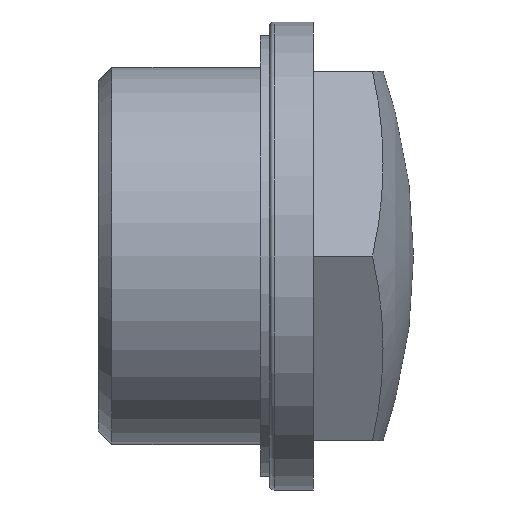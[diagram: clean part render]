
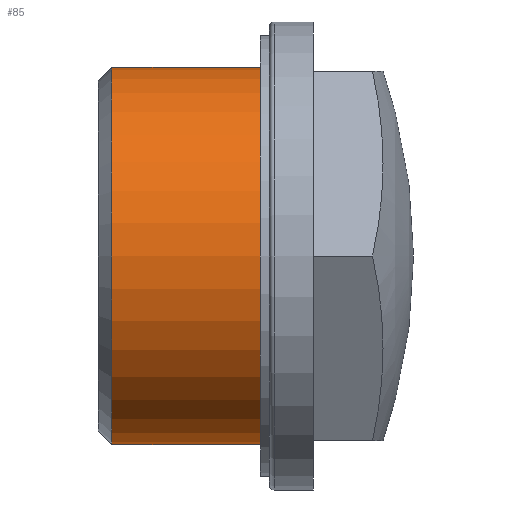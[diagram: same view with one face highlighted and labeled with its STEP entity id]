
A CAD part, front view. The second image highlights one B-rep face of the part: STEP entity #85.
In plain terms, the highlighted cylindrical face has radius 20.955 mm (diameter 41.91 mm), a full revolution.
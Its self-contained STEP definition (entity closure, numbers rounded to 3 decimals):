
#85 = ADVANCED_FACE( '', ( #925, #926 ), #927, .T. );
#925 = FACE_OUTER_BOUND( '', #2586, .T. );
#926 = FACE_OUTER_BOUND( '', #2587, .T. );
#927 = CYLINDRICAL_SURFACE( '', #2588, 20.955 );
#2586 = EDGE_LOOP( '', ( #4285 ) );
#2587 = EDGE_LOOP( '', ( #4286 ) );
#2588 = AXIS2_PLACEMENT_3D( '', #4287, #4288, #4289 );
#4285 = ORIENTED_EDGE( '', *, *, #9390, .T. );
#4286 = ORIENTED_EDGE( '', *, *, #9409, .F. );
#4287 = CARTESIAN_POINT( '', ( 0., 0., 0. ) );
#4288 = DIRECTION( '', ( -1., 0., 0. ) );
#4289 = DIRECTION( '', ( 0., 0., -1. ) );
#9390 = EDGE_CURVE( '', #10739, #10739, #10740, .T. );
#9409 = EDGE_CURVE( '', #10771, #10771, #10772, .T. );
#10739 = VERTEX_POINT( '', #12612 );
#10740 = CIRCLE( '', #12613, 20.955 );
#10771 = VERTEX_POINT( '', #12656 );
#10772 = CIRCLE( '', #12657, 20.955 );
#12612 = CARTESIAN_POINT( '', ( -17.521, 0., -20.955 ) );
#12613 = AXIS2_PLACEMENT_3D( '', #15674, #15675, #15676 );
#12656 = CARTESIAN_POINT( '', ( -1., 0., -20.955 ) );
#12657 = AXIS2_PLACEMENT_3D( '', #15707, #15708, #15709 );
#15674 = CARTESIAN_POINT( '', ( -17.521, 0., 0. ) );
#15675 = DIRECTION( '', ( 1., 0., 0. ) );
#15676 = DIRECTION( '', ( 0., 0., -1. ) );
#15707 = CARTESIAN_POINT( '', ( -1., 0., 0. ) );
#15708 = DIRECTION( '', ( 1., 0., 0. ) );
#15709 = DIRECTION( '', ( 0., 0., -1. ) );
